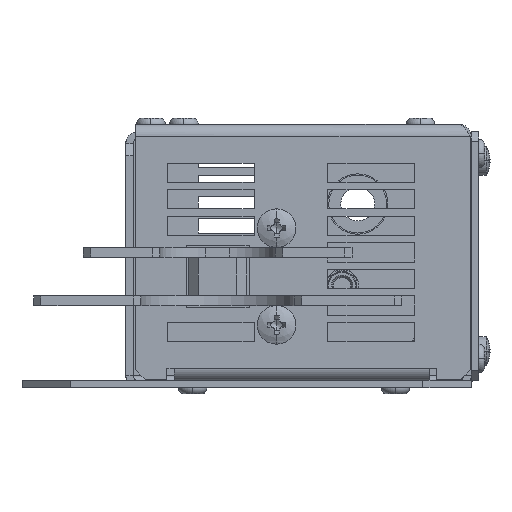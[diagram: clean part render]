
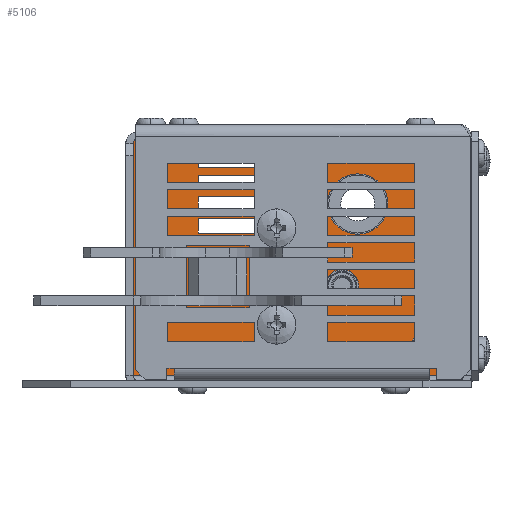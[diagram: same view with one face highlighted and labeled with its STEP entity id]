
A CAD part, left-side view. The second image highlights one B-rep face of the part: STEP entity #5106.
In plain terms, the highlighted planar face has unit normal (-1, 0, 0).
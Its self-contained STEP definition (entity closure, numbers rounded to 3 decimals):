
#337=DIRECTION('',(0.,0.,-1.));
#338=VECTOR('',#337,48.5);
#339=CARTESIAN_POINT('',(161.,70.5,51.));
#340=LINE('',#339,#338);
#399=DIRECTION('',(0.,0.,1.));
#400=VECTOR('',#399,48.5);
#401=CARTESIAN_POINT('',(161.,-2.5,2.5));
#402=LINE('',#401,#400);
#407=DIRECTION('',(0.,-0.707,0.707));
#408=VECTOR('',#407,2.828);
#409=CARTESIAN_POINT('',(161.,70.5,51.));
#410=LINE('',#409,#408);
#411=DIRECTION('',(0.,0.,-1.));
#412=VECTOR('',#411,2.5);
#413=CARTESIAN_POINT('',(161.,63.5,53.));
#414=LINE('',#413,#412);
#415=DIRECTION('',(0.,-1.,0.));
#416=VECTOR('',#415,1.5);
#417=CARTESIAN_POINT('',(161.,4.,50.5));
#418=LINE('',#417,#416);
#419=DIRECTION('',(0.,-0.707,-0.707));
#420=VECTOR('',#419,2.828);
#421=CARTESIAN_POINT('',(161.,-0.5,53.));
#422=LINE('',#421,#420);
#423=DIRECTION('',(0.,0.,-1.));
#424=VECTOR('',#423,3.);
#425=CARTESIAN_POINT('',(161.,55.5,35.));
#426=LINE('',#425,#424);
#427=DIRECTION('',(0.,-1.,0.));
#428=VECTOR('',#427,15.);
#429=CARTESIAN_POINT('',(161.,55.5,32.));
#430=LINE('',#429,#428);
#431=DIRECTION('',(0.,0.,1.));
#432=VECTOR('',#431,3.);
#433=CARTESIAN_POINT('',(161.,40.5,32.));
#434=LINE('',#433,#432);
#435=DIRECTION('',(0.,1.,0.));
#436=VECTOR('',#435,15.);
#437=CARTESIAN_POINT('',(161.,40.5,35.));
#438=LINE('',#437,#436);
#439=DIRECTION('',(0.,0.,-1.));
#440=VECTOR('',#439,3.);
#441=CARTESIAN_POINT('',(161.,55.5,39.5));
#442=LINE('',#441,#440);
#443=DIRECTION('',(0.,-1.,0.));
#444=VECTOR('',#443,15.);
#445=CARTESIAN_POINT('',(161.,55.5,36.5));
#446=LINE('',#445,#444);
#447=DIRECTION('',(0.,0.,1.));
#448=VECTOR('',#447,3.);
#449=CARTESIAN_POINT('',(161.,40.5,36.5));
#450=LINE('',#449,#448);
#451=DIRECTION('',(0.,1.,0.));
#452=VECTOR('',#451,15.);
#453=CARTESIAN_POINT('',(161.,40.5,39.5));
#454=LINE('',#453,#452);
#455=DIRECTION('',(0.,0.,-1.));
#456=VECTOR('',#455,3.);
#457=CARTESIAN_POINT('',(161.,55.5,44.));
#458=LINE('',#457,#456);
#459=DIRECTION('',(0.,-1.,0.));
#460=VECTOR('',#459,15.);
#461=CARTESIAN_POINT('',(161.,55.5,41.));
#462=LINE('',#461,#460);
#463=DIRECTION('',(0.,0.,1.));
#464=VECTOR('',#463,3.);
#465=CARTESIAN_POINT('',(161.,40.5,41.));
#466=LINE('',#465,#464);
#467=DIRECTION('',(0.,1.,0.));
#468=VECTOR('',#467,15.);
#469=CARTESIAN_POINT('',(161.,40.5,44.));
#470=LINE('',#469,#468);
#471=DIRECTION('',(0.,0.,-1.));
#472=VECTOR('',#471,3.);
#473=CARTESIAN_POINT('',(161.,55.5,48.5));
#474=LINE('',#473,#472);
#475=DIRECTION('',(0.,-1.,0.));
#476=VECTOR('',#475,15.);
#477=CARTESIAN_POINT('',(161.,55.5,45.5));
#478=LINE('',#477,#476);
#479=DIRECTION('',(0.,0.,1.));
#480=VECTOR('',#479,3.);
#481=CARTESIAN_POINT('',(161.,40.5,45.5));
#482=LINE('',#481,#480);
#483=DIRECTION('',(0.,1.,0.));
#484=VECTOR('',#483,15.);
#485=CARTESIAN_POINT('',(161.,40.5,48.5));
#486=LINE('',#485,#484);
#487=CARTESIAN_POINT('',(161.,22.5,38.));
#488=DIRECTION('',(-1.,0.,0.));
#489=DIRECTION('',(0.,-1.,0.));
#490=AXIS2_PLACEMENT_3D('',#487,#488,#489);
#492=CARTESIAN_POINT('',(161.,22.5,38.));
#493=DIRECTION('',(-1.,0.,0.));
#494=DIRECTION('',(0.,1.,0.));
#495=AXIS2_PLACEMENT_3D('',#492,#493,#494);
#497=CARTESIAN_POINT('',(161.,9.,9.));
#498=DIRECTION('',(-1.,0.,0.));
#499=DIRECTION('',(0.,-1.,0.));
#500=AXIS2_PLACEMENT_3D('',#497,#498,#499);
#502=CARTESIAN_POINT('',(161.,9.,9.));
#503=DIRECTION('',(-1.,0.,0.));
#504=DIRECTION('',(0.,1.,0.));
#505=AXIS2_PLACEMENT_3D('',#502,#503,#504);
#507=CARTESIAN_POINT('',(161.,25.75,21.));
#508=DIRECTION('',(-1.,0.,0.));
#509=DIRECTION('',(0.,-1.,0.));
#510=AXIS2_PLACEMENT_3D('',#507,#508,#509);
#512=CARTESIAN_POINT('',(161.,25.75,21.));
#513=DIRECTION('',(-1.,0.,0.));
#514=DIRECTION('',(0.,1.,0.));
#515=AXIS2_PLACEMENT_3D('',#512,#513,#514);
#528=DIRECTION('',(0.,-1.,0.));
#529=VECTOR('',#528,73.);
#530=CARTESIAN_POINT('',(161.,70.5,2.5));
#531=LINE('',#530,#529);
#532=CARTESIAN_POINT('',(161.,-2.5,2.5));
#2829=DIRECTION('',(0.,1.,0.));
#2830=VECTOR('',#2829,5.);
#2831=CARTESIAN_POINT('',(161.,63.5,53.));
#2832=LINE('',#2831,#2830);
#2845=DIRECTION('',(0.,1.,0.));
#2846=VECTOR('',#2845,1.5);
#2847=CARTESIAN_POINT('',(161.,62.,50.5));
#2848=LINE('',#2847,#2846);
#2893=DIRECTION('',(0.,0.,-1.));
#2894=VECTOR('',#2893,2.5);
#2895=CARTESIAN_POINT('',(161.,2.5,53.));
#2896=LINE('',#2895,#2894);
#2901=DIRECTION('',(0.,1.,0.));
#2902=VECTOR('',#2901,3.);
#2903=CARTESIAN_POINT('',(161.,-0.5,53.));
#2904=LINE('',#2903,#2902);
#2917=DIRECTION('',(0.,1.,0.));
#2918=VECTOR('',#2917,58.);
#2919=CARTESIAN_POINT('',(161.,4.,50.5));
#2920=LINE('',#2919,#2918);
#3446=VERTEX_POINT('',#532);
#3487=CARTESIAN_POINT('',(161.,70.5,2.5));
#3488=VERTEX_POINT('',#3487);
#3489=CARTESIAN_POINT('',(161.,70.5,51.));
#3491=VERTEX_POINT('',#3489);
#3495=CARTESIAN_POINT('',(161.,68.5,53.));
#3496=VERTEX_POINT('',#3495);
#3557=CARTESIAN_POINT('',(161.,-2.5,51.));
#3558=VERTEX_POINT('',#3557);
#3559=CARTESIAN_POINT('',(161.,63.5,53.));
#3560=VERTEX_POINT('',#3559);
#3561=CARTESIAN_POINT('',(161.,63.5,50.5));
#3562=VERTEX_POINT('',#3561);
#3563=CARTESIAN_POINT('',(161.,62.,50.5));
#3564=VERTEX_POINT('',#3563);
#3565=CARTESIAN_POINT('',(161.,4.,50.5));
#3566=VERTEX_POINT('',#3565);
#3567=CARTESIAN_POINT('',(161.,2.5,50.5));
#3568=VERTEX_POINT('',#3567);
#3569=CARTESIAN_POINT('',(161.,2.5,53.));
#3570=VERTEX_POINT('',#3569);
#3571=CARTESIAN_POINT('',(161.,-0.5,53.));
#3572=VERTEX_POINT('',#3571);
#3573=CARTESIAN_POINT('',(161.,55.5,35.));
#3574=CARTESIAN_POINT('',(161.,55.5,32.));
#3575=VERTEX_POINT('',#3573);
#3576=VERTEX_POINT('',#3574);
#3577=CARTESIAN_POINT('',(161.,40.5,32.));
#3578=VERTEX_POINT('',#3577);
#3579=CARTESIAN_POINT('',(161.,40.5,35.));
#3580=VERTEX_POINT('',#3579);
#3581=CARTESIAN_POINT('',(161.,55.5,39.5));
#3582=CARTESIAN_POINT('',(161.,55.5,36.5));
#3583=VERTEX_POINT('',#3581);
#3584=VERTEX_POINT('',#3582);
#3585=CARTESIAN_POINT('',(161.,40.5,36.5));
#3586=VERTEX_POINT('',#3585);
#3587=CARTESIAN_POINT('',(161.,40.5,39.5));
#3588=VERTEX_POINT('',#3587);
#3589=CARTESIAN_POINT('',(161.,55.5,44.));
#3590=CARTESIAN_POINT('',(161.,55.5,41.));
#3591=VERTEX_POINT('',#3589);
#3592=VERTEX_POINT('',#3590);
#3593=CARTESIAN_POINT('',(161.,40.5,41.));
#3594=VERTEX_POINT('',#3593);
#3595=CARTESIAN_POINT('',(161.,40.5,44.));
#3596=VERTEX_POINT('',#3595);
#3597=CARTESIAN_POINT('',(161.,55.5,48.5));
#3598=CARTESIAN_POINT('',(161.,55.5,45.5));
#3599=VERTEX_POINT('',#3597);
#3600=VERTEX_POINT('',#3598);
#3601=CARTESIAN_POINT('',(161.,40.5,45.5));
#3602=VERTEX_POINT('',#3601);
#3603=CARTESIAN_POINT('',(161.,40.5,48.5));
#3604=VERTEX_POINT('',#3603);
#3605=CARTESIAN_POINT('',(161.,16.25,38.));
#3606=CARTESIAN_POINT('',(161.,28.75,38.));
#3607=VERTEX_POINT('',#3605);
#3608=VERTEX_POINT('',#3606);
#3609=CARTESIAN_POINT('',(161.,6.75,9.));
#3610=CARTESIAN_POINT('',(161.,11.25,9.));
#3611=VERTEX_POINT('',#3609);
#3612=VERTEX_POINT('',#3610);
#3613=CARTESIAN_POINT('',(161.,23.25,21.));
#3614=CARTESIAN_POINT('',(161.,28.25,21.));
#3615=VERTEX_POINT('',#3613);
#3616=VERTEX_POINT('',#3614);
#5020=CARTESIAN_POINT('',(161.,15.394,0.));
#5021=DIRECTION('',(1.,0.,0.));
#5022=DIRECTION('',(0.,1.,0.));
#5023=AXIS2_PLACEMENT_3D('',#5020,#5021,#5022);
#5024=PLANE('',#5023);
#5025=ORIENTED_EDGE('',*,*,#5013,.F.);
#5027=ORIENTED_EDGE('',*,*,#5026,.F.);
#5028=ORIENTED_EDGE('',*,*,#4896,.F.);
#5029=ORIENTED_EDGE('',*,*,#4913,.T.);
#5031=ORIENTED_EDGE('',*,*,#5030,.F.);
#5033=ORIENTED_EDGE('',*,*,#5032,.T.);
#5035=ORIENTED_EDGE('',*,*,#5034,.F.);
#5037=ORIENTED_EDGE('',*,*,#5036,.F.);
#5039=ORIENTED_EDGE('',*,*,#5038,.T.);
#5041=ORIENTED_EDGE('',*,*,#5040,.F.);
#5043=ORIENTED_EDGE('',*,*,#5042,.F.);
#5045=ORIENTED_EDGE('',*,*,#5044,.T.);
#5046=EDGE_LOOP('',(#5025,#5027,#5028,#5029,#5031,#5033,#5035,#5037,#5039,#5041,
#5043,#5045));
#5047=FACE_OUTER_BOUND('',#5046,.F.);
#5049=ORIENTED_EDGE('',*,*,#5048,.T.);
#5051=ORIENTED_EDGE('',*,*,#5050,.T.);
#5053=ORIENTED_EDGE('',*,*,#5052,.T.);
#5055=ORIENTED_EDGE('',*,*,#5054,.T.);
#5056=EDGE_LOOP('',(#5049,#5051,#5053,#5055));
#5057=FACE_BOUND('',#5056,.F.);
#5059=ORIENTED_EDGE('',*,*,#5058,.T.);
#5061=ORIENTED_EDGE('',*,*,#5060,.T.);
#5063=ORIENTED_EDGE('',*,*,#5062,.T.);
#5065=ORIENTED_EDGE('',*,*,#5064,.T.);
#5066=EDGE_LOOP('',(#5059,#5061,#5063,#5065));
#5067=FACE_BOUND('',#5066,.F.);
#5069=ORIENTED_EDGE('',*,*,#5068,.T.);
#5071=ORIENTED_EDGE('',*,*,#5070,.T.);
#5073=ORIENTED_EDGE('',*,*,#5072,.T.);
#5075=ORIENTED_EDGE('',*,*,#5074,.T.);
#5076=EDGE_LOOP('',(#5069,#5071,#5073,#5075));
#5077=FACE_BOUND('',#5076,.F.);
#5079=ORIENTED_EDGE('',*,*,#5078,.T.);
#5081=ORIENTED_EDGE('',*,*,#5080,.T.);
#5083=ORIENTED_EDGE('',*,*,#5082,.T.);
#5085=ORIENTED_EDGE('',*,*,#5084,.T.);
#5086=EDGE_LOOP('',(#5079,#5081,#5083,#5085));
#5087=FACE_BOUND('',#5086,.F.);
#5089=ORIENTED_EDGE('',*,*,#5088,.T.);
#5091=ORIENTED_EDGE('',*,*,#5090,.T.);
#5092=EDGE_LOOP('',(#5089,#5091));
#5093=FACE_BOUND('',#5092,.F.);
#5095=ORIENTED_EDGE('',*,*,#5094,.T.);
#5097=ORIENTED_EDGE('',*,*,#5096,.T.);
#5098=EDGE_LOOP('',(#5095,#5097));
#5099=FACE_BOUND('',#5098,.F.);
#5101=ORIENTED_EDGE('',*,*,#5100,.T.);
#5103=ORIENTED_EDGE('',*,*,#5102,.T.);
#5104=EDGE_LOOP('',(#5101,#5103));
#5105=FACE_BOUND('',#5104,.F.);
#491=CIRCLE('',#490,6.25);
#496=CIRCLE('',#495,6.25);
#501=CIRCLE('',#500,2.25);
#506=CIRCLE('',#505,2.25);
#511=CIRCLE('',#510,2.5);
#516=CIRCLE('',#515,2.5);
#4896=EDGE_CURVE('',#3491,#3488,#340,.T.);
#4913=EDGE_CURVE('',#3491,#3496,#410,.T.);
#5013=EDGE_CURVE('',#3446,#3558,#402,.T.);
#5026=EDGE_CURVE('',#3488,#3446,#531,.T.);
#5030=EDGE_CURVE('',#3560,#3496,#2832,.T.);
#5032=EDGE_CURVE('',#3560,#3562,#414,.T.);
#5034=EDGE_CURVE('',#3564,#3562,#2848,.T.);
#5036=EDGE_CURVE('',#3566,#3564,#2920,.T.);
#5038=EDGE_CURVE('',#3566,#3568,#418,.T.);
#5040=EDGE_CURVE('',#3570,#3568,#2896,.T.);
#5042=EDGE_CURVE('',#3572,#3570,#2904,.T.);
#5044=EDGE_CURVE('',#3572,#3558,#422,.T.);
#5048=EDGE_CURVE('',#3575,#3576,#426,.T.);
#5050=EDGE_CURVE('',#3576,#3578,#430,.T.);
#5052=EDGE_CURVE('',#3578,#3580,#434,.T.);
#5054=EDGE_CURVE('',#3580,#3575,#438,.T.);
#5058=EDGE_CURVE('',#3583,#3584,#442,.T.);
#5060=EDGE_CURVE('',#3584,#3586,#446,.T.);
#5062=EDGE_CURVE('',#3586,#3588,#450,.T.);
#5064=EDGE_CURVE('',#3588,#3583,#454,.T.);
#5068=EDGE_CURVE('',#3591,#3592,#458,.T.);
#5070=EDGE_CURVE('',#3592,#3594,#462,.T.);
#5072=EDGE_CURVE('',#3594,#3596,#466,.T.);
#5074=EDGE_CURVE('',#3596,#3591,#470,.T.);
#5078=EDGE_CURVE('',#3599,#3600,#474,.T.);
#5080=EDGE_CURVE('',#3600,#3602,#478,.T.);
#5082=EDGE_CURVE('',#3602,#3604,#482,.T.);
#5084=EDGE_CURVE('',#3604,#3599,#486,.T.);
#5088=EDGE_CURVE('',#3607,#3608,#491,.T.);
#5090=EDGE_CURVE('',#3608,#3607,#496,.T.);
#5094=EDGE_CURVE('',#3611,#3612,#501,.T.);
#5096=EDGE_CURVE('',#3612,#3611,#506,.T.);
#5100=EDGE_CURVE('',#3615,#3616,#511,.T.);
#5102=EDGE_CURVE('',#3616,#3615,#516,.T.);
#5106=ADVANCED_FACE('',(#5047,#5057,#5067,#5077,#5087,#5093,#5099,#5105),#5024,
.F.);
